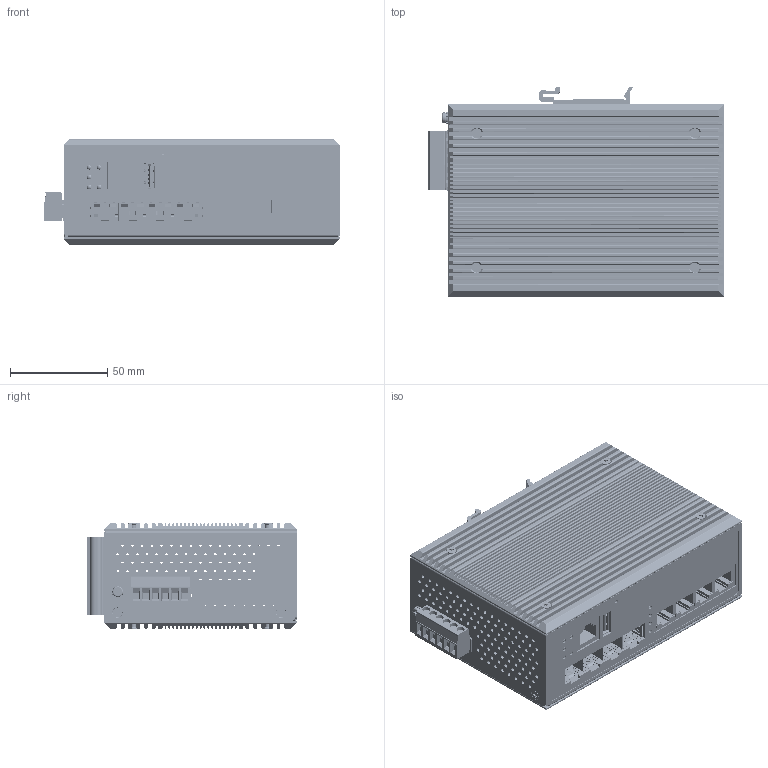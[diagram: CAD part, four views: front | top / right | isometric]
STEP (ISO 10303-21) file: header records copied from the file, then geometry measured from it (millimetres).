
FILE_DESCRIPTION(/* description */ ('STEP AP242','CAx-IF Rec.Pracs.---Representation and Presentation of Product Manufacturing Information (PMI)---4.0---2014-10-13','CAx-IF Rec.Pracs.---3D Tessellated Geometry---0.4---2014-09-14','2;1'),/* implementation_level */ '2;1');
FILE_NAME(/* name */ '6850a38e6231dc47666080c9',/* time_stamp */ '2025-06-16T23:06:59Z',/* author */ (''),/* organization */ (''),/* preprocessor_version */ 'ST-DEVELOPER v20',/* originating_system */ 'ONSHAPE BY PTC INC, 1.199',/* authorisation */ ' ');
FILE_SCHEMA (('AP242_MANAGED_MODEL_BASED_3D_ENGINEERING_MIM_LF { 1 0 10303 442 1 1 4 }'));
Products named in the file (59): ETH-44GMP-1; TOP-CASE; SCREW_M3X4_F_15; SCREW_M3X4_F_3; RJ45; SCREW_M3X4_F_2; CASE_BOTTOM; SCREW_M3X4_F; SFP; SCREW_M3X4_F_10; SCREW_M3X4_F_4; SIDE_RT; MYLAR; CONNECTOR_1; SCREW_M3X4_F_14; CONNECTOR_2; LED_3POS-2; GND_SCREW; LED-3POS-1; SCREW_M3X4_F_17; SCREW_M3X4_F_11; SCREW_M3X4_F_8; SCREW_M3X4_F_13; SCREW_M3X4_F_5; SCREW_M3X4_F_7; SCREW_M3X4_F_6; SCREW_M3X4_F_1; SCREW_M3X4_F_12; SCREW_M3X4_F_9; DIN_RAIL; TERMINAL_PLUG; SCREW_M3X4_F_16; SOCKET; SIDE_FT; SWITCH
Assembly tree (58 placements, depth 2):
  ETH-44GMP-1
    TOP-CASE
    SCREW_M3X4_F_15
    SCREW_M3X4_F_3
    TOP-CASE
    TOP-CASE
    RJ45
    SCREW_M3X4_F_2
    CASE_BOTTOM
    SCREW_M3X4_F
    SFP
    SCREW_M3X4_F_10
    TOP-CASE
    SCREW_M3X4_F_4
    TOP-CASE
    SIDE_RT
    MYLAR
    TOP-CASE
    CONNECTOR_1
    SCREW_M3X4_F_14
    SFP
    SFP
    CONNECTOR_2
    TOP-CASE
    LED_3POS-2
    SFP
    TOP-CASE
    TOP-CASE
    TOP-CASE
    TOP-CASE
    TOP-CASE
    GND_SCREW
    LED-3POS-1
    SCREW_M3X4_F_17
    SCREW_M3X4_F_11
    TOP-CASE
    TOP-CASE
    SCREW_M3X4_F_8
    SCREW_M3X4_F_13
    SCREW_M3X4_F_5
    SCREW_M3X4_F_7
    SCREW_M3X4_F_6
    SCREW_M3X4_F_1
    SFP
    SFP
    SCREW_M3X4_F_12
    SCREW_M3X4_F_9
    TOP-CASE
    DIN_RAIL
    TERMINAL_PLUG
    SCREW_M3X4_F_16
    SOCKET
    TOP-CASE
    TOP-CASE
    SIDE_FT
    SWITCH
    TOP-CASE
    TOP-CASE
    TOP-CASE
Bounding box: 152.12 x 107.8 x 54 mm (x, y, z)
Volume: 132820.6 mm3; surface area: 209422.8 mm2
Topology: 37 solids, 58 shells, 4534 faces, 12838 edges, 8452 vertices
Faces by surface type: plane 2795, cylinder 1429, bspline 110, cone 81, torus 74, sphere 45
Full cylindrical faces by diameter (mm): 0.5 x12, 1.5 x1, 1.8 x1, 1.9 x245, 2 x65, 2.3 x5, 2.8 x5, 2.9 x8, 3 x37, 3.2 x11, 3.4 x8, 3.5 x7, 3.783 x6, 4 x21, 5 x31, 5.5 x1
Entity records: 153489 total; most frequent: CARTESIAN_POINT 35844, ORIENTED_EDGE 23902, DIRECTION 22789, EDGE_CURVE 12143, VERTEX_POINT 8335, LINE 8283, VECTOR 8283, AXIS2_PLACEMENT_3D 7253
